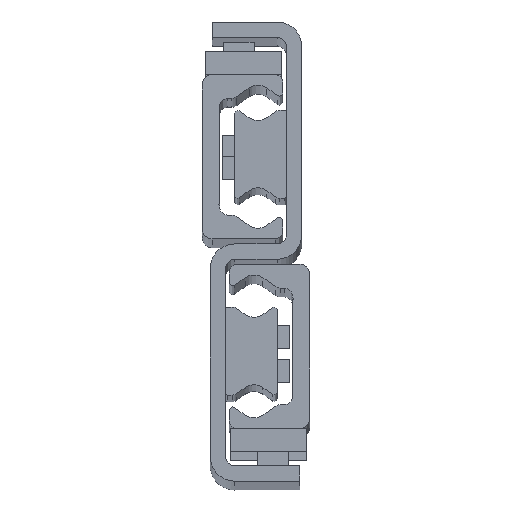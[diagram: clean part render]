
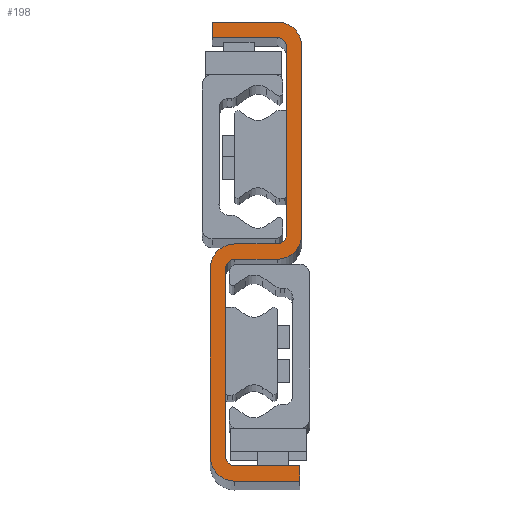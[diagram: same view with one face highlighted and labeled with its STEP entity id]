
A CAD part, top view. The second image highlights one B-rep face of the part: STEP entity #198.
In plain terms, the highlighted planar face has unit normal (0, 0, 1).
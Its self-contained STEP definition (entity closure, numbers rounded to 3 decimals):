
#198=ADVANCED_FACE('',(#681),#682,.T.);
#681=FACE_OUTER_BOUND('',#1459,.T.);
#682=PLANE('',#1460);
#1459=EDGE_LOOP('',(#2909,#2910,#2911,#2912,#2913,#2914,#2915,#2916,#2917,#2918,#2919,#2920,#2921,#2922,#2923,#2924,#2925,#2926,#2927,#2928));
#1460=AXIS2_PLACEMENT_3D('',#2929,#2930,#2931);
#2909=ORIENTED_EDGE('',*,*,#5081,.F.);
#2910=ORIENTED_EDGE('',*,*,#5139,.F.);
#2911=ORIENTED_EDGE('',*,*,#5136,.F.);
#2912=ORIENTED_EDGE('',*,*,#5133,.F.);
#2913=ORIENTED_EDGE('',*,*,#5130,.F.);
#2914=ORIENTED_EDGE('',*,*,#5127,.F.);
#2915=ORIENTED_EDGE('',*,*,#5124,.F.);
#2916=ORIENTED_EDGE('',*,*,#5121,.F.);
#2917=ORIENTED_EDGE('',*,*,#5118,.F.);
#2918=ORIENTED_EDGE('',*,*,#5115,.F.);
#2919=ORIENTED_EDGE('',*,*,#5112,.F.);
#2920=ORIENTED_EDGE('',*,*,#5109,.F.);
#2921=ORIENTED_EDGE('',*,*,#5106,.F.);
#2922=ORIENTED_EDGE('',*,*,#5103,.F.);
#2923=ORIENTED_EDGE('',*,*,#5100,.F.);
#2924=ORIENTED_EDGE('',*,*,#5097,.F.);
#2925=ORIENTED_EDGE('',*,*,#5094,.F.);
#2926=ORIENTED_EDGE('',*,*,#5091,.F.);
#2927=ORIENTED_EDGE('',*,*,#5088,.F.);
#2928=ORIENTED_EDGE('',*,*,#5085,.F.);
#2929=CARTESIAN_POINT('',(-14.,26.,2018.0));
#2930=DIRECTION('',(0.0,0.0,1.0));
#2931=DIRECTION('',(1.0,0.0,0.0));
#5081=EDGE_CURVE('',#6159,#6160,#6161,.T.);
#5085=EDGE_CURVE('',#6160,#6167,#6168,.T.);
#5088=EDGE_CURVE('',#6167,#6172,#6173,.T.);
#5091=EDGE_CURVE('',#6172,#6177,#6178,.T.);
#5094=EDGE_CURVE('',#6177,#6182,#6183,.T.);
#5097=EDGE_CURVE('',#6182,#6187,#6188,.T.);
#5100=EDGE_CURVE('',#6187,#6192,#6193,.T.);
#5103=EDGE_CURVE('',#6192,#6197,#6198,.T.);
#5106=EDGE_CURVE('',#6197,#6202,#6203,.T.);
#5109=EDGE_CURVE('',#6202,#6207,#6208,.T.);
#5112=EDGE_CURVE('',#6207,#6212,#6213,.T.);
#5115=EDGE_CURVE('',#6212,#6217,#6218,.T.);
#5118=EDGE_CURVE('',#6217,#6222,#6223,.T.);
#5121=EDGE_CURVE('',#6222,#6227,#6228,.T.);
#5124=EDGE_CURVE('',#6227,#6232,#6233,.T.);
#5127=EDGE_CURVE('',#6232,#6237,#6238,.T.);
#5130=EDGE_CURVE('',#6237,#6242,#6243,.T.);
#5133=EDGE_CURVE('',#6242,#6247,#6248,.T.);
#5136=EDGE_CURVE('',#6247,#6252,#6253,.T.);
#5139=EDGE_CURVE('',#6252,#6159,#6257,.T.);
#6159=VERTEX_POINT('',#7841);
#6160=VERTEX_POINT('',#7842);
#6161=LINE('',#7843,#7844);
#6167=VERTEX_POINT('',#7853);
#6168=CIRCLE('',#7854,2.5);
#6172=VERTEX_POINT('',#7859);
#6173=LINE('',#7860,#7861);
#6177=VERTEX_POINT('',#7867);
#6178=CIRCLE('',#7868,2.5);
#6182=VERTEX_POINT('',#7873);
#6183=LINE('',#7874,#7875);
#6187=VERTEX_POINT('',#7881);
#6188=LINE('',#7882,#7883);
#6192=VERTEX_POINT('',#7889);
#6193=LINE('',#7890,#7891);
#6197=VERTEX_POINT('',#7897);
#6198=CIRCLE('',#7898,6.5);
#6202=VERTEX_POINT('',#7903);
#6203=LINE('',#7904,#7905);
#6207=VERTEX_POINT('',#7911);
#6208=CIRCLE('',#7912,6.5);
#6212=VERTEX_POINT('',#7917);
#6213=LINE('',#7918,#7919);
#6217=VERTEX_POINT('',#7925);
#6218=CIRCLE('',#7926,2.5);
#6222=VERTEX_POINT('',#7931);
#6223=LINE('',#7932,#7933);
#6227=VERTEX_POINT('',#7939);
#6228=CIRCLE('',#7940,2.5);
#6232=VERTEX_POINT('',#7945);
#6233=LINE('',#7946,#7947);
#6237=VERTEX_POINT('',#7953);
#6238=LINE('',#7954,#7955);
#6242=VERTEX_POINT('',#7961);
#6243=LINE('',#7962,#7963);
#6247=VERTEX_POINT('',#7969);
#6248=CIRCLE('',#7970,6.5);
#6252=VERTEX_POINT('',#7975);
#6253=LINE('',#7976,#7977);
#6257=CIRCLE('',#7983,6.5);
#7841=CARTESIAN_POINT('',(-8.5,24.,2018.0));
#7842=CARTESIAN_POINT('',(-19.5,24.,2018.0));
#7843=CARTESIAN_POINT('',(-8.5,24.,2018.0));
#7844=VECTOR('',#9661,1.0);
#7853=CARTESIAN_POINT('',(-22.,21.5,2018.0));
#7854=AXIS2_PLACEMENT_3D('',#9665,#9666,#9667);
#7859=CARTESIAN_POINT('',(-22.,-27.5,2018.0));
#7860=CARTESIAN_POINT('',(-22.,-27.5,2018.0));
#7861=VECTOR('',#9672,1.0);
#7867=CARTESIAN_POINT('',(-19.5,-30.,2018.0));
#7868=AXIS2_PLACEMENT_3D('',#9675,#9676,#9677);
#7873=CARTESIAN_POINT('',(-2.5,-30.,2018.0));
#7874=CARTESIAN_POINT('',(-19.5,-30.,2018.0));
#7875=VECTOR('',#9682,1.0);
#7881=CARTESIAN_POINT('',(-2.5,-34.,2018.0));
#7882=CARTESIAN_POINT('',(-2.5,-34.,2018.0));
#7883=VECTOR('',#9685,1.0);
#7889=CARTESIAN_POINT('',(-19.5,-34.,2018.0));
#7890=CARTESIAN_POINT('',(-19.5,-34.,2018.0));
#7891=VECTOR('',#9688,1.0);
#7897=CARTESIAN_POINT('',(-26.,-27.5,2018.0));
#7898=AXIS2_PLACEMENT_3D('',#9691,#9692,#9693);
#7903=CARTESIAN_POINT('',(-26.,21.5,2018.0));
#7904=CARTESIAN_POINT('',(-26.,21.5,2018.0));
#7905=VECTOR('',#9698,1.0);
#7911=CARTESIAN_POINT('',(-19.5,28.,2018.0));
#7912=AXIS2_PLACEMENT_3D('',#9701,#9702,#9703);
#7917=CARTESIAN_POINT('',(-8.5,28.,2018.0));
#7918=CARTESIAN_POINT('',(-8.5,28.,2018.0));
#7919=VECTOR('',#9708,1.0);
#7925=CARTESIAN_POINT('',(-6.,30.5,2018.0));
#7926=AXIS2_PLACEMENT_3D('',#9711,#9712,#9713);
#7931=CARTESIAN_POINT('',(-6.,79.5,2018.0));
#7932=CARTESIAN_POINT('',(-6.,79.5,2018.0));
#7933=VECTOR('',#9718,1.0);
#7939=CARTESIAN_POINT('',(-8.5,82.,2018.0));
#7940=AXIS2_PLACEMENT_3D('',#9721,#9722,#9723);
#7945=CARTESIAN_POINT('',(-25.5,82.,2018.0));
#7946=CARTESIAN_POINT('',(-25.5,82.,2018.0));
#7947=VECTOR('',#9728,1.0);
#7953=CARTESIAN_POINT('',(-25.5,86.,2018.0));
#7954=CARTESIAN_POINT('',(-25.5,86.,2018.0));
#7955=VECTOR('',#9731,1.0);
#7961=CARTESIAN_POINT('',(-8.5,86.,2018.0));
#7962=CARTESIAN_POINT('',(-25.5,86.,2018.0));
#7963=VECTOR('',#9734,1.0);
#7969=CARTESIAN_POINT('',(-2.,79.5,2018.0));
#7970=AXIS2_PLACEMENT_3D('',#9737,#9738,#9739);
#7975=CARTESIAN_POINT('',(-2.,30.5,2018.0));
#7976=CARTESIAN_POINT('',(-2.,79.5,2018.0));
#7977=VECTOR('',#9744,1.0);
#7983=AXIS2_PLACEMENT_3D('',#9747,#9748,#9749);
#9661=DIRECTION('',(-1.0,0.,0.0));
#9665=CARTESIAN_POINT('',(-19.5,21.5,2018.0));
#9666=DIRECTION('',(0.0,0.0,1.0));
#9667=DIRECTION('',(1.0,0.0,0.0));
#9672=DIRECTION('',(-0.0,-1.0,-0.0));
#9675=CARTESIAN_POINT('',(-19.5,-27.5,2018.0));
#9676=DIRECTION('',(0.0,0.0,1.0));
#9677=DIRECTION('',(1.0,0.0,0.0));
#9682=DIRECTION('',(1.,0.,0.0));
#9685=DIRECTION('',(-0.0,-1.0,-0.0));
#9688=DIRECTION('',(-1.,0.,-0.0));
#9691=CARTESIAN_POINT('',(-19.5,-27.5,2018.0));
#9692=DIRECTION('',(0.0,0.0,-1.0));
#9693=DIRECTION('',(1.0,0.0,0.0));
#9698=DIRECTION('',(0.0,1.0,0.0));
#9701=CARTESIAN_POINT('',(-19.5,21.5,2018.0));
#9702=DIRECTION('',(0.0,0.0,-1.0));
#9703=DIRECTION('',(1.0,0.0,0.0));
#9708=DIRECTION('',(1.0,0.,0.0));
#9711=CARTESIAN_POINT('',(-8.5,30.5,2018.0));
#9712=DIRECTION('',(0.0,0.0,1.0));
#9713=DIRECTION('',(1.0,0.0,0.0));
#9718=DIRECTION('',(0.0,1.0,0.0));
#9721=CARTESIAN_POINT('',(-8.5,79.5,2018.0));
#9722=DIRECTION('',(0.0,0.0,1.0));
#9723=DIRECTION('',(1.0,0.0,0.0));
#9728=DIRECTION('',(-1.,0.,0.0));
#9731=DIRECTION('',(0.0,1.0,0.0));
#9734=DIRECTION('',(1.,0.,0.0));
#9737=CARTESIAN_POINT('',(-8.5,79.5,2018.0));
#9738=DIRECTION('',(0.0,0.0,-1.0));
#9739=DIRECTION('',(1.0,0.0,0.0));
#9744=DIRECTION('',(0.,-1.0,0.0));
#9747=CARTESIAN_POINT('',(-8.5,30.5,2018.0));
#9748=DIRECTION('',(0.0,0.0,-1.0));
#9749=DIRECTION('',(1.0,0.0,0.0));
